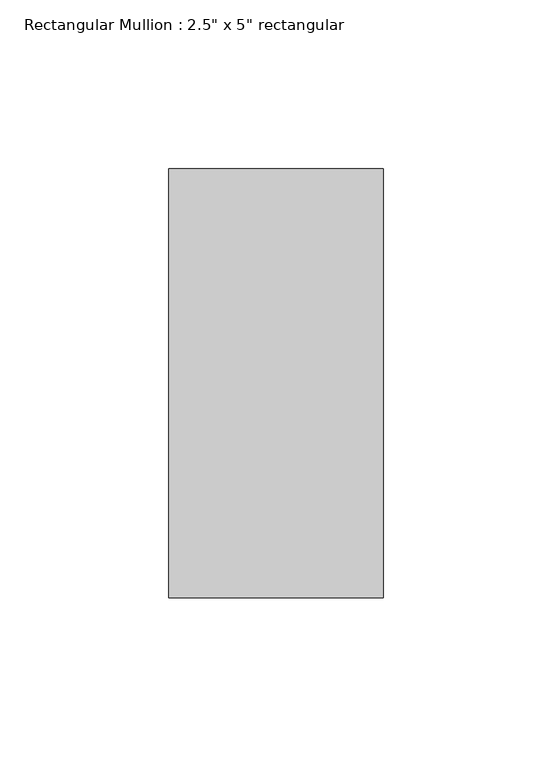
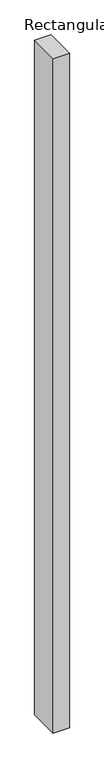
"""IFC4 building model written with IfcOpenShell, lengths in millimetres: member geometry."""

import ifcopenshell
import ifcopenshell.guid

model = None  # the IFC model being written
_history = None  # IfcOwnerHistory: only IFC2X3 demands one
_inside = {}  # id of a spatial element -> (the spatial element, [elements in it])
_under = {}  # id of a project, library or spatial element -> (it, [spatial elements below it])
_declared = {}  # id of a project -> (the project, [libraries it declares])
_typed = {}  # id of a type object -> (the type object, [elements of that type])
_made_of = {}  # id of a material, layer set ... -> (it, [elements and type objects made of it])


def new_model(schema):
    """Start an empty IFC model of exactly this schema.

    Asked for "IFC4X3", IfcOpenShell would pick the latest addendum, in which some entities
    have other attributes; the version numbers below select the first issue.
    IFC2X3 requires an IfcOwnerHistory on every rooted entity: one is made here for all.
    """
    global model, _history
    if schema == "IFC4X3":
        model = ifcopenshell.file(schema_version=(4, 3, 0, 0))
    else:
        model = ifcopenshell.file(schema=schema)
    _inside.clear()
    _under.clear()
    _declared.clear()
    _typed.clear()
    _made_of.clear()
    _history = None
    if model.schema == "IFC2X3":
        org = make("IfcOrganization", Name="unknown")
        user = make(
            "IfcPersonAndOrganization",
            ThePerson=make("IfcPerson", FamilyName="unknown"),
            TheOrganization=org,
        )
        app = make(
            "IfcApplication",
            ApplicationDeveloper=org,
            Version="unknown",
            ApplicationFullName="unknown",
            ApplicationIdentifier="unknown",
        )
        _history = make(
            "IfcOwnerHistory",
            OwningUser=user,
            OwningApplication=app,
            ChangeAction="ADDED",
            CreationDate=0,
        )
    return model


def make(cls, **values):
    """One entity of the class cls with the attributes given. An attribute that is None is left unset."""
    return model.create_entity(
        cls, **{name: value for name, value in values.items() if value is not None}
    )


def rooted(cls, **values):
    """An entity with a GlobalId (a new one), such as an element, a storey or a relation."""
    return make(cls, GlobalId=ifcopenshell.guid.new(), OwnerHistory=_history, **values)


def si_unit(unit_type, name, prefix=None):
    """IfcSIUnit, for example si_unit("LENGTHUNIT", "METRE", prefix="MILLI")."""
    return make("IfcSIUnit", UnitType=unit_type, Prefix=prefix, Name=name)


def assignment(units):
    """IfcUnitAssignment: the units of a project."""
    return None if units is None else make("IfcUnitAssignment", Units=units)


def point(xyz):
    """IfcCartesianPoint."""
    return None if xyz is None else make("IfcCartesianPoint", Coordinates=xyz)


def direction(xyz):
    """IfcDirection."""
    return None if xyz is None else make("IfcDirection", DirectionRatios=xyz)


def frame(location, z_axis=None, x_axis=None):
    """IfcAxis2Placement3D, a coordinate frame: its origin and axes. An axis left out is left unset."""
    return make(
        "IfcAxis2Placement3D",
        Location=point(location),
        Axis=direction(z_axis),
        RefDirection=direction(x_axis),
    )


def origin():
    """The frame at (0, 0, 0) with its axes left unset."""
    return frame((0.0, 0.0, 0.0))


def place(relative_to, where):
    """IfcLocalPlacement: puts the frame where relative to a parent placement (None: the world)."""
    return make(
        "IfcLocalPlacement", PlacementRelTo=relative_to, RelativePlacement=where
    )


def context(
    kind, dimensions, precision=None, world=None, true_north=None, identifier=None
):
    """IfcGeometricRepresentationContext, for example the 3D "Model" context."""
    return make(
        "IfcGeometricRepresentationContext",
        ContextIdentifier=identifier,
        ContextType=kind,
        CoordinateSpaceDimension=dimensions,
        Precision=precision,
        WorldCoordinateSystem=world,
        TrueNorth=true_north,
    )


def project(units=None, contexts=None):
    """IfcProject with its units and contexts."""
    return rooted(
        "IfcProject",
        Name="project",
        RepresentationContexts=contexts,
        UnitsInContext=assignment(units),
    )


def spatial(cls, under=None, at=None, **own):
    """A site, building, storey or space (cls), placed at a placement, below another one or the project."""
    s = rooted(cls, ObjectPlacement=at, **own)
    if under is not None:
        _under.setdefault(under.id(), (under, []))[1].append(s)
    return s


def polyline(points):
    """IfcPolyline through the points."""
    return make("IfcPolyline", Points=[point(p) for p in points])


def outline(outer, holes=None, kind="AREA"):
    """IfcArbitraryClosedProfileDef: a profile drawn as a closed curve; with holes, ...WithVoids."""
    if holes is None:
        return make("IfcArbitraryClosedProfileDef", ProfileType=kind, OuterCurve=outer)
    return make(
        "IfcArbitraryProfileDefWithVoids",
        ProfileType=kind,
        OuterCurve=outer,
        InnerCurves=holes,
    )


def extrude(swept, where, along, depth):
    """IfcExtrudedAreaSolid: the profile swept, set in the frame where, extruded along a direction by depth."""
    return make(
        "IfcExtrudedAreaSolid",
        SweptArea=swept,
        Position=where,
        ExtrudedDirection=direction(along),
        Depth=depth,
    )


def shape(context_of_items, identifier, shape_type, items):
    """IfcShapeRepresentation: the items that make up one representation, for example the "Body"."""
    return make(
        "IfcShapeRepresentation",
        ContextOfItems=context_of_items,
        RepresentationIdentifier=identifier,
        RepresentationType=shape_type,
        Items=items,
    )


def source(mapping_origin, context_of_items, identifier, shape_type, items):
    """IfcRepresentationMap: a shape defined once, which mapped items show again and again."""
    return make(
        "IfcRepresentationMap",
        MappingOrigin=mapping_origin,
        MappedRepresentation=shape(context_of_items, identifier, shape_type, items),
    )


def transform(
    local_origin,
    x_axis=None,
    y_axis=None,
    z_axis=None,
    scale=None,
    scale2=None,
    scale3=None,
    uniform=True,
):
    """IfcCartesianTransformationOperator3D, or its non-uniform kind. x_axis, y_axis, z_axis: its Axis1, 2, 3."""
    if uniform:
        return make(
            "IfcCartesianTransformationOperator3D",
            Axis1=direction(x_axis),
            Axis2=direction(y_axis),
            LocalOrigin=point(local_origin),
            Scale=scale,
            Axis3=direction(z_axis),
        )
    return make(
        "IfcCartesianTransformationOperator3DnonUniform",
        Axis1=direction(x_axis),
        Axis2=direction(y_axis),
        LocalOrigin=point(local_origin),
        Scale=scale,
        Axis3=direction(z_axis),
        Scale2=scale2,
        Scale3=scale3,
    )


def mapped(mapping_source, mapping_target):
    """IfcMappedItem: shows the shape of a source again, moved by a transform."""
    return make(
        "IfcMappedItem", MappingSource=mapping_source, MappingTarget=mapping_target
    )


def made_of(thing, what):
    """Note that an element or type object is made of a material, layer set ...; save() writes the relation."""
    if what is not None:
        _made_of.setdefault(what.id(), (what, []))[1].append(thing)
    return thing


def element(
    cls,
    number,
    at=None,
    inside=None,
    cuts=None,
    type_object=None,
    material=None,
    context=None,
    identifier="Body",
    shape_type=None,
    held_by="IfcProductDefinitionShape",
    body=None,
    shapes=None,
    **own,
):
    """One element of the class cls, such as IfcWall. Its Tag is "e" and its number.

    at: its placement. inside: the storey or other place that contains it. cuts: it is an
    opening in that element (IfcRelVoidsElement). A single representation is given by context,
    identifier, shape_type and body (its items); several are given by shapes. held_by: the class
    of the entity that holds the representations. save() writes the other relations.
    """
    e = rooted(cls, Tag="e%d" % number, ObjectPlacement=at, **own)
    if body is not None:
        shapes = [shape(context, identifier, shape_type, body)]
    if shapes is not None:
        e.Representation = make(held_by, Representations=shapes)
    if inside is not None:
        _inside.setdefault(inside.id(), (inside, []))[1].append(e)
    if cuts is not None:
        rooted(
            "IfcRelVoidsElement", RelatingBuildingElement=cuts, RelatedOpeningElement=e
        )
    if type_object is not None:
        _typed.setdefault(type_object.id(), (type_object, []))[1].append(e)
    return made_of(e, material)


def aggregate(whole, parts):
    """IfcRelAggregates: a whole, such as a stair, and the parts it consists of."""
    return rooted("IfcRelAggregates", RelatingObject=whole, RelatedObjects=parts)


def save(model, path):
    """Write the relations noted so far, then the file.

    IfcRelAggregates (storeys below a building ...), IfcRelContainedInSpatialStructure (elements
    in a storey), IfcRelDefinesByType, IfcRelAssociatesMaterial and IfcRelDeclares: one each for
    every whole, place, type object, material and project.
    """
    for whole, parts in _under.values():
        aggregate(whole, parts)
    for where, things in _inside.values():
        rooted(
            "IfcRelContainedInSpatialStructure",
            RelatedElements=things,
            RelatingStructure=where,
        )
    for kind, things in _typed.values():
        rooted("IfcRelDefinesByType", RelatedObjects=things, RelatingType=kind)
    for what, things in _made_of.values():
        rooted("IfcRelAssociatesMaterial", RelatedObjects=things, RelatingMaterial=what)
    for by, libraries in _declared.values():
        rooted("IfcRelDeclares", RelatingContext=by, RelatedDefinitions=libraries)
    model.write(path)


def member_069002c8(model_context):
    return source(origin(), model_context, "Body", "SweptSolid", [
        extrude(outline(polyline([(31.75, 63.5), (31.75, -63.5), (-31.75, -63.5), (-31.75, 63.5), (31.75, 63.5)])), frame((0.0, 0.0, -2813.05), z_axis=(0.0, 0.0, 1.0), x_axis=(1.0, 0.0, 0.0)), (0.0, 0.0, 1.0), 2813.05),
    ])


if __name__ == "__main__":
    model = new_model("IFC4")
    model_context = context("Model", 3, world=origin())
    ifc_project = project(units=[si_unit("LENGTHUNIT", "METRE", prefix="MILLI")], contexts=[model_context])
    site = spatial("IfcSite", under=ifc_project)
    building = spatial("IfcBuilding", under=site)
    placement = place(None, origin())
    member_shape = member_069002c8(model_context)
    element("IfcMember", 1, ObjectType="Rectangular Mullion : 2.5\" x 5\" rectangular", at=placement, inside=building, context=model_context, shape_type="MappedRepresentation", body=[
        mapped(member_shape, transform((0.0, 0.0, 0.0), x_axis=(1.0, 0.0, 0.0), y_axis=(0.0, 1.0, 0.0), z_axis=(0.0, 0.0, 1.0))),
    ])
    save(model, "model.ifc")
